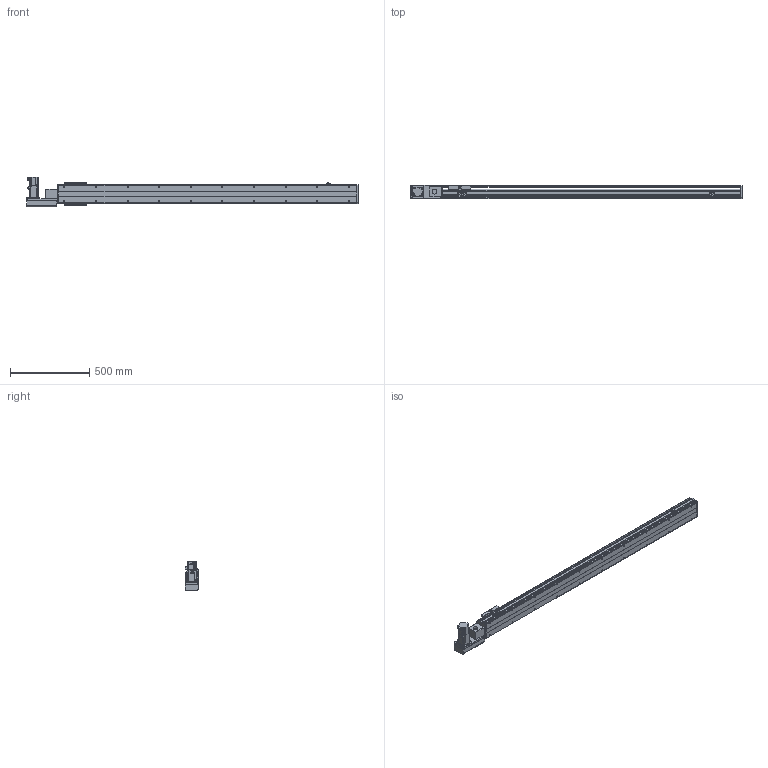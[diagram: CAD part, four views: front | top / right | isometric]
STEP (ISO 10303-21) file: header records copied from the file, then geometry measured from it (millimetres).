
FILE_DESCRIPTION( ( 'STEP AP214' ), '1' );
FILE_NAME( 'x:/temp/worker_26/temp/exporttempdir_3776_67_BExde/format_0/PBS120-P40-S1600-L-T40-C1-N(0).stp', '2022-06-05T00:26:36', ( 'License CC BY-ND 4.0' ), ( 'CADENAS' ), ' ', 'PARTsolutions', ' ' );
FILE_SCHEMA( ( 'AUTOMOTIVE_DESIGN { 1 0 10303 214 1 1 1 1 }' ) );
Length unit declared in the file: millimetre
Products named in the file (7): PBS120-P40-S1600-L-T40-C1-N(0); _PBS120-S1600()_body; _PBS120T-L_motors; _T40-p1; _PBS120_sliser; _PBS120_plant; _PBS120_sensor
Assembly tree (8 placements, depth 2):
  PBS120-P40-S1600-L-T40-C1-N(0)
    _PBS120-S1600()_body
    _PBS120T-L_motors
    _T40-p1
    _PBS120_sliser
    _PBS120_plant
    _PBS120_sensor  x3
Bounding box: 2101 x 83 x 189.7 mm (x, y, z)
Volume: 7914372.7 mm3; surface area: 1594553.3 mm2
Topology: 8 solids, 8 shells, 840 faces, 2176 edges, 1399 vertices
Faces by surface type: plane 553, cylinder 233, cone 52, torus 2
Full cylindrical faces by diameter (mm): 2.459 x6, 3.242 x4, 4 x2, 4.134 x4, 4.5 x10, 4.917 x24, 5.5 x11, 6 x2, 6.6 x1, 7 x2, 8.5 x4, 9 x4, 12 x1, 14 x1, 30 x2, 40 x1, 50 x2
Entity records: 27660 total; most frequent: DIRECTION 3788, CARTESIAN_POINT 3713, ORIENTED_EDGE 3526, EDGE_CURVE 1763, AXIS2_PLACEMENT_3D 1280, LINE 1228, VECTOR 1228, VERTEX_POINT 1205
